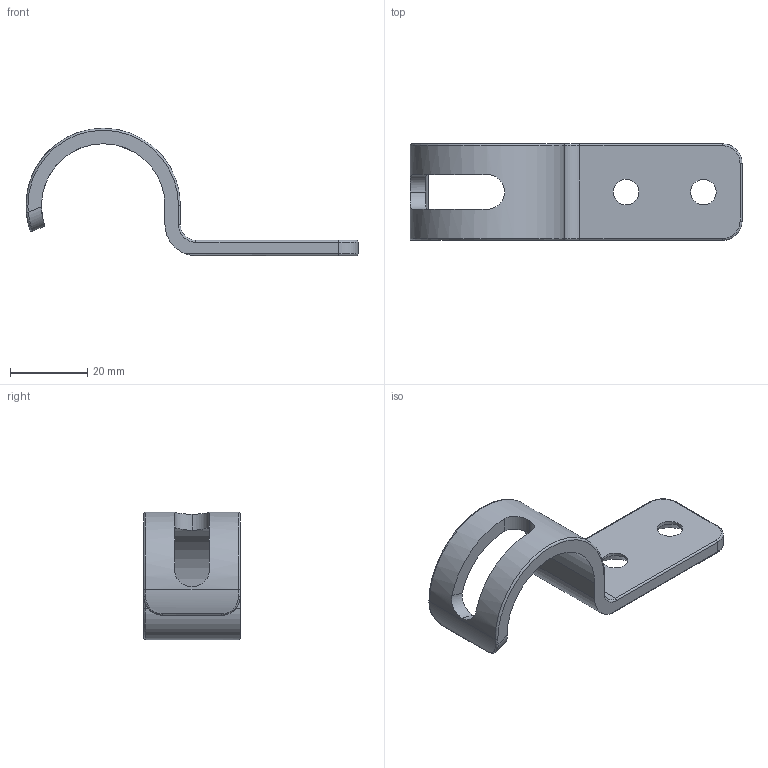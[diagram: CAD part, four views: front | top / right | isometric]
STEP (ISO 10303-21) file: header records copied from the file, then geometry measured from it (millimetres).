
FILE_DESCRIPTION (( 'STEP AP214' ), '1' );
FILE_NAME ('1.3049 kannatin kahvaprofiilille 32.STEP', '2025-09-09T09:16:00', ( '' ), ( '' ), 'SwSTEP 2.0', 'SolidWorks 2025', '' );
FILE_SCHEMA (( 'AUTOMOTIVE_DESIGN' ));
Length unit declared in the file: millimetre
Products named in the file (1): 1.3049 kannatin kahvaprofiilille 32
Bounding box: 86 x 25 x 33 mm (x, y, z)
Volume: 10170.4 mm3; surface area: 6661 mm2
Topology: 1 solids, 1 shells, 60 faces, 148 edges, 89 vertices
Faces by surface type: cylinder 30, torus 13, plane 10, cone 4, bspline 3
Entity records: 2389 total; most frequent: CARTESIAN_POINT 958, DIRECTION 301, ORIENTED_EDGE 296, EDGE_CURVE 148, AXIS2_PLACEMENT_3D 124, VERTEX_POINT 89, CIRCLE 66, EDGE_LOOP 65
